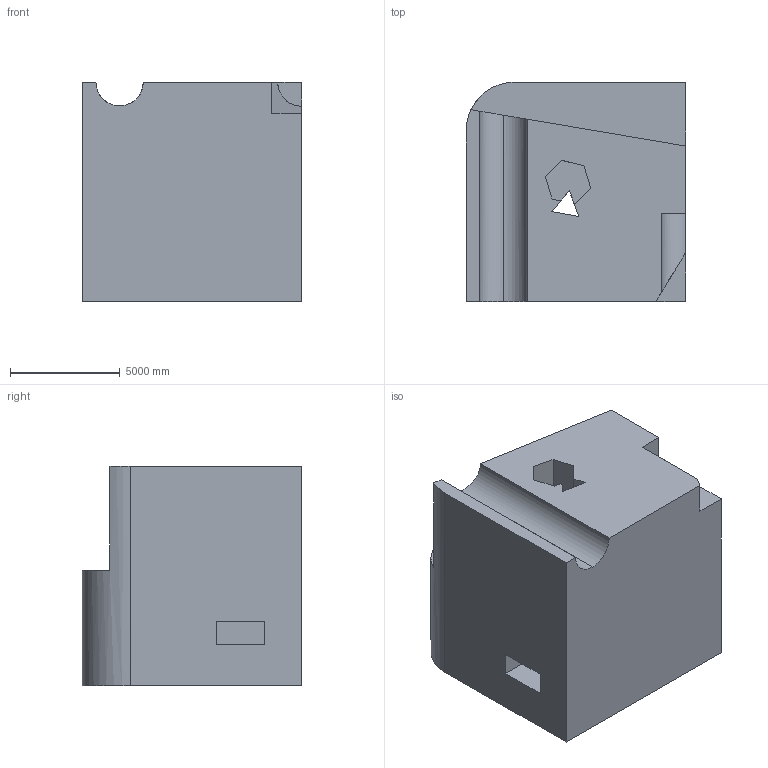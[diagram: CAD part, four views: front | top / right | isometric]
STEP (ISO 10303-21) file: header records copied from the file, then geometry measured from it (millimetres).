
FILE_DESCRIPTION (( 'STEP AP203' ), '1' );
FILE_NAME ('1729.STEP', '2022-08-19T12:09:11', ( 'user' ), ( '' ), 'SwSTEP 2.0', 'SolidWorks 2021', '' );
FILE_SCHEMA (( 'CONFIG_CONTROL_DESIGN' ));
Length unit declared in the file: centimetre
Products named in the file (1): 1729
Bounding box: 10000 x 10000 x 10000 mm (x, y, z)
Volume: 851980413434.2 mm3; surface area: 656139267 mm2
Topology: 1 solids, 1 shells, 33 faces, 96 edges, 64 vertices
Faces by surface type: plane 29, cylinder 4
Entity records: 1161 total; most frequent: CARTESIAN_POINT 203, ORIENTED_EDGE 192, DIRECTION 167, EDGE_CURVE 96, VECTOR 87, LINE 87, VERTEX_POINT 64, AXIS2_PLACEMENT_3D 40
